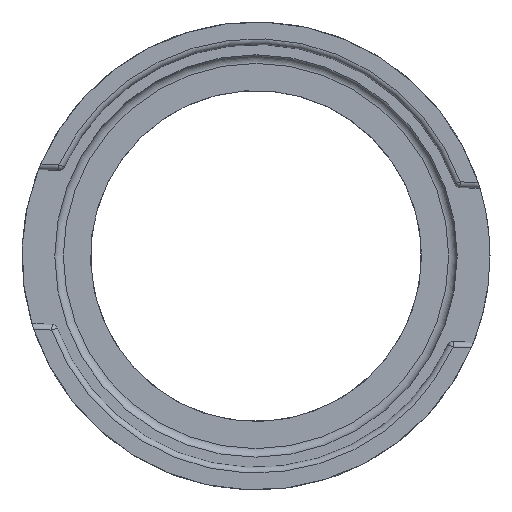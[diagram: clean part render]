
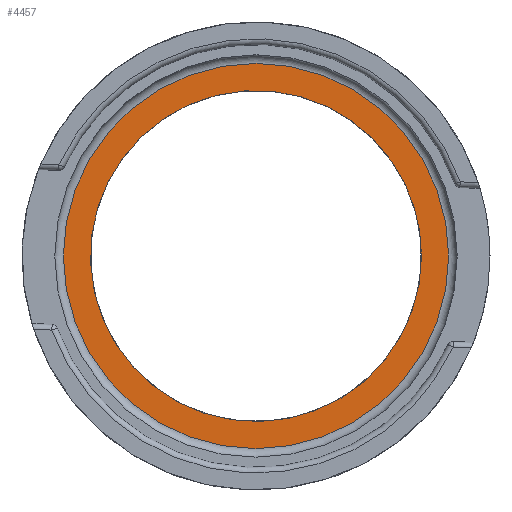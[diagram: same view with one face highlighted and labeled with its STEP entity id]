
A CAD part, top view. The second image highlights one B-rep face of the part: STEP entity #4457.
In plain terms, the highlighted planar face has unit normal (0, 0, 1).
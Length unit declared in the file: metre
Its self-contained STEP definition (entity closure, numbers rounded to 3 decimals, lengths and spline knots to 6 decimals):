
#623=CIRCLE('',#4824,0.03375);
#624=CIRCLE('',#4825,0.029);
#1473=ORIENTED_EDGE('',*,*,#2647,.T.);
#1474=ORIENTED_EDGE('',*,*,#2648,.T.);
#2647=EDGE_CURVE('',#3153,#3153,#623,.F.);
#2648=EDGE_CURVE('',#3154,#3154,#624,.T.);
#3153=VERTEX_POINT('',#10991);
#3154=VERTEX_POINT('',#10993);
#3725=EDGE_LOOP('',(#1473));
#3726=EDGE_LOOP('',(#1474));
#4028=FACE_BOUND('',#3725,.T.);
#4029=FACE_BOUND('',#3726,.T.);
#4220=PLANE('',#4823);
#4457=ADVANCED_FACE('',(#4028,#4029),#4220,.F.);
#4823=AXIS2_PLACEMENT_3D('',#10989,#5410,#5411);
#4824=AXIS2_PLACEMENT_3D('',#10990,#5412,#5413);
#4825=AXIS2_PLACEMENT_3D('',#10992,#5414,#5415);
#5410=DIRECTION('',(0.,0.,-1.));
#5411=DIRECTION('',(0.819,0.574,0.));
#5412=DIRECTION('',(0.,0.,-1.));
#5413=DIRECTION('',(1.,0.,0.));
#5414=DIRECTION('',(0.,0.,-1.));
#5415=DIRECTION('',(1.,0.,0.));
#10989=CARTESIAN_POINT('',(0.,0.,0.0708));
#10990=CARTESIAN_POINT('',(0.,0.,0.0708));
#10991=CARTESIAN_POINT('',(0.03375,0.,0.0708));
#10992=CARTESIAN_POINT('',(0.,0.,0.0708));
#10993=CARTESIAN_POINT('',(0.029,0.,0.0708));
